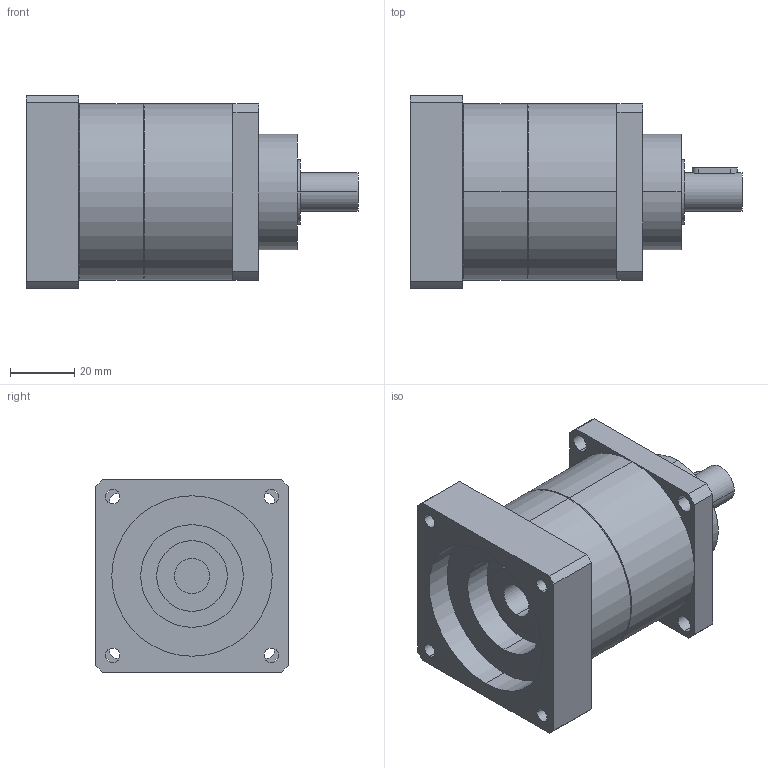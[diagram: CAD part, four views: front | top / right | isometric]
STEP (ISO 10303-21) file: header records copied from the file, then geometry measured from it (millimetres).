
FILE_DESCRIPTION(('CoCreate Modeling STEP Export'),'2;1');
FILE_NAME('GPT55_ig-3-4-5-7-10_12_B5A_11_P17.stp','2014-08-25T14:31:24',(''),(''),'CoCreate Modeling STEP processor for AP214 (Solid Model)','CoCreate Modeling 16.00C 25-Feb-2009 (C) Parametric Technology GmbH','');
FILE_SCHEMA(('AUTOMOTIVE_DESIGN { 1 0 10303 214 1 1 1 1 }'));
Length unit declared in the file: millimetre
Products named in the file (2): GPT55_ig-3-4-5-7-10_12_B5A_11_P17
Assembly tree (1 placements, depth 2):
  GPT55_ig-3-4-5-7-10_12_B5A_11_P17
    GPT55_ig-3-4-5-7-10_12_B5A_11_P17
Bounding box: 103.5 x 60 x 60 mm (x, y, z)
Volume: 186495.8 mm3; surface area: 29044.2 mm2
Topology: 1 solids, 1 shells, 77 faces, 204 edges, 139 vertices
Faces by surface type: cylinder 46, plane 27, cone 4
Entity records: 2515 total; most frequent: CARTESIAN_POINT 710, ORIENTED_EDGE 408, DIRECTION 318, EDGE_CURVE 204, VERTEX_POINT 139, AXIS2_PLACEMENT_3D 117, EDGE_LOOP 103, VECTOR 84
